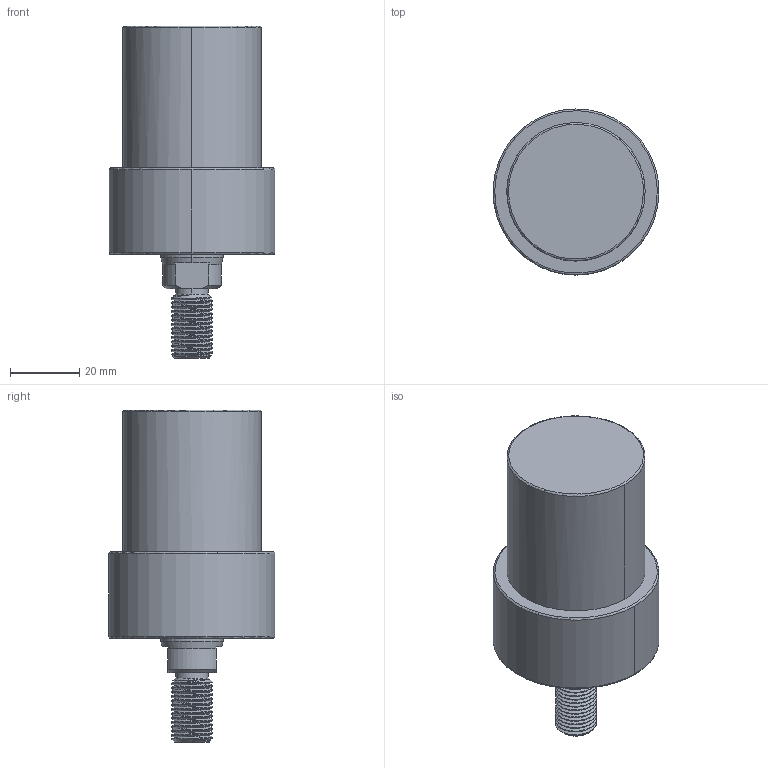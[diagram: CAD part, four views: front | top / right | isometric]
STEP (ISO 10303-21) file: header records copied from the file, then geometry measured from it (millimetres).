
FILE_DESCRIPTION((' '),'2;1');
FILE_NAME( 'TLLU-040GT-030.STEP.stp', '2025-10-24T16:37:13', (' '), ('--- Datakit www.datakit.com---'), ' Datakit CrossCadWare V2024.1 Dec 21 2023', 'Mastercam 2025', ' ');
FILE_SCHEMA(('AUTOMOTIVE_DESIGN { 1 0 10303 214 1 1 1 1 }'));
Length unit declared in the file: millimetre
Products named in the file (1): TLLU-040GT-030
Bounding box: 47.99 x 48 x 96 mm (x, y, z)
Volume: 99901.2 mm3; surface area: 14943 mm2
Topology: 1 solids, 1 shells, 95 faces, 338 edges, 246 vertices
Faces by surface type: cylinder 49, cone 26, plane 12, torus 6, bspline 2
Entity records: 9391 total; most frequent: CARTESIAN_POINT 6599, ORIENTED_EDGE 660, DIRECTION 509, EDGE_CURVE 330, VERTEX_POINT 246, AXIS2_PLACEMENT_3D 214, B_SPLINE_CURVE_WITH_KNOTS 129, CIRCLE 120
